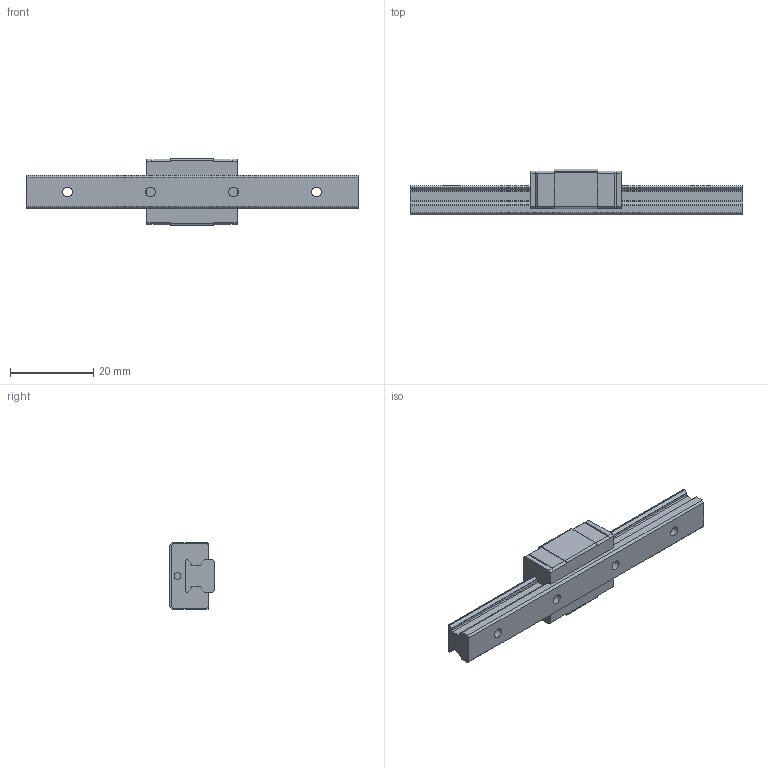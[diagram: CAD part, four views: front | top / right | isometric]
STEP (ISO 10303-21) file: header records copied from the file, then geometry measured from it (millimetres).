
FILE_DESCRIPTION(/* description */ ('STEP AP203'),/* implementation_level */ '2;1');
FILE_NAME(/* name */ 'HRG8SRM1UU-80LHM_G10_0_Without_grease_nipple_29-15_0_0_01',/* time_stamp */ '2024-05-23T11:22:29+02:00',/* author */ ('License CC BY-ND 4.0'),/* organization */ ('CADENAS'),/* preprocessor_version */ 'ST-DEVELOPER v19.3',/* originating_system */ 'PARTsolutions',/* authorisation */ ' ');
FILE_SCHEMA (('CONFIG_CONTROL_DESIGN'));
Length unit declared in the file: millimetre
Products named in the file (4): HRG8SRM1UU-80LHM_G10_0_Without_grease_nipple_29-15_0_0_01; HRG8SRM18010 Rail; HRG8SRMUU 1Slider; HSR-YR-_grease_nipple_joint
Assembly tree (3 placements, depth 2):
  HRG8SRM1UU-80LHM_G10_0_Without_grease_nipple_29-15_0_0_01
    HRG8SRM18010 Rail
    HRG8SRMUU 1Slider
    HSR-YR-_grease_nipple_joint
Bounding box: 80 x 11 x 16 mm (x, y, z)
Volume: 5956.2 mm3; surface area: 4561.5 mm2
Topology: 2 solids, 2 shells, 136 faces, 374 edges, 249 vertices
Faces by surface type: plane 87, cylinder 45, cone 4
Full cylindrical faces by diameter (mm): 1.567 x2, 1.6 x2, 2.4 x4, 4.2 x4
Entity records: 4326 total; most frequent: CARTESIAN_POINT 741, DIRECTION 728, ORIENTED_EDGE 708, EDGE_CURVE 354, LINE 260, VECTOR 260, VERTEX_POINT 246, AXIS2_PLACEMENT_3D 234
